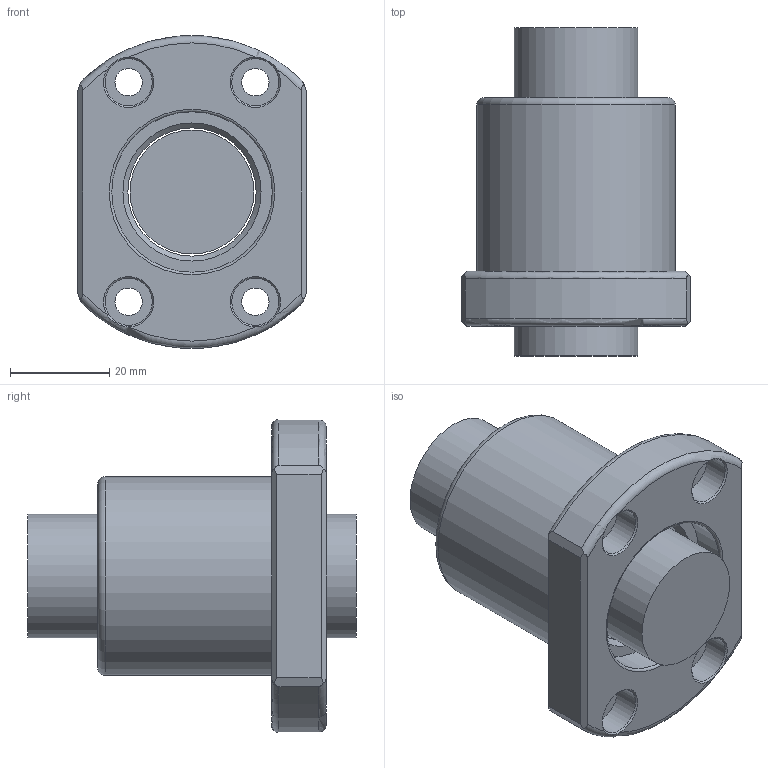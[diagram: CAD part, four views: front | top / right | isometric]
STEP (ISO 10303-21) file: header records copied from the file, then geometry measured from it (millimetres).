
FILE_DESCRIPTION(/* description */ (''),/* implementation_level */ '2;1');
FILE_NAME(/* name */ '2504T4D.prt.step',/* time_stamp */ '2008-12-05T09:33:36+08:00',/* author */ (''),/* organization */ (''),/* preprocessor_version */ 'ST-DEVELOPER v11',/* originating_system */ 'SIEMENS UGS NX 6.0',/* authorisation */ '');
FILE_SCHEMA (('AUTOMOTIVE_DESIGN { 1 0 10303 214 1 1 1 1 }'));
Length unit declared in the file: millimetre
Products named in the file (1): 2504T4D
Bounding box: 46 x 66 x 62.94 mm (x, y, z)
Volume: 74656.7 mm3; surface area: 21154.8 mm2
Topology: 2 solids, 2 shells, 53 faces, 133 edges, 87 vertices
Faces by surface type: plane 21, cylinder 15, cone 10, torus 7
Full cylindrical faces by diameter (mm): 5.5 x4, 9.5 x4, 24.95 x1, 25.8 x1, 32.3 x2, 40 x1
Entity records: 1606 total; most frequent: CARTESIAN_POINT 460, DIRECTION 234, ORIENTED_EDGE 190, AXIS2_PLACEMENT_3D 105, EDGE_CURVE 95, EDGE_LOOP 92, VERTEX_POINT 75, FACE_BOUND 74
